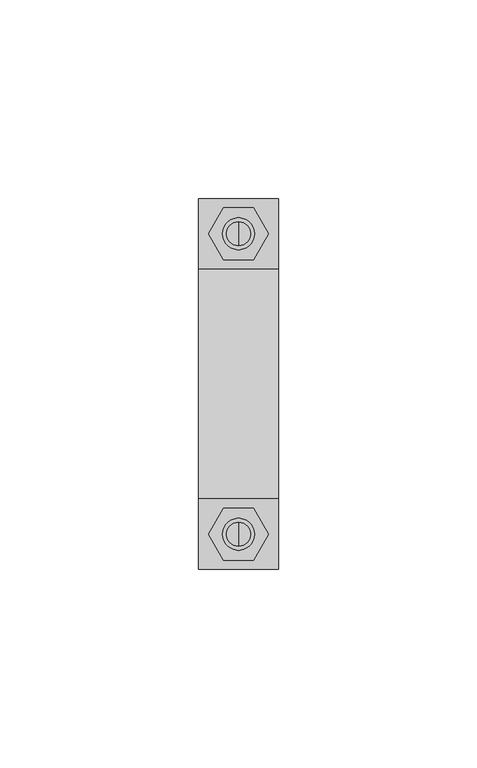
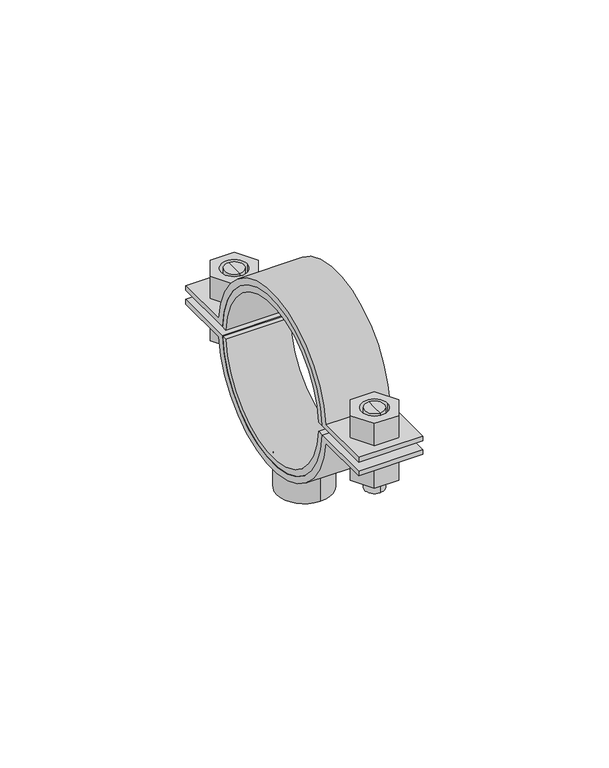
"""IFC4 building model written with IfcOpenShell, lengths in millimetres: valve geometry, Superfix DG2 Clamp : Superfix DG2 Clamp."""

from ifc_helpers import new_model, si_unit, point, frame, frame_2d, origin, origin_2d, place, context, project, spatial, polyline, circle_curve, trimmed, segment, composite_curve, outline, extrude, source, transform, mapped, element, save
from ifc_brep_helpers import plane_surface, cylinder_surface, advanced_brep


def valve_2c299770(model_context):
    return source(origin(), model_context, "Body", "SolidModel", [
        advanced_brep(
        [(0.0, 40.75, 184.4), (0.0, 34.75, 184.4), (0.0, 34.75, 198.5), (0.0, 40.75, 198.5), (0.0, 37.75, 184.4)],
        [
            (0, 1, circle_curve(frame((0.0, 37.75, 184.4), z_axis=(0.0, 0.0, 1.0), x_axis=(0.0, 1.0, 0.0)), 3.0)),
            (1, 2),
            (2, 3, circle_curve(frame((0.0, 37.75, 198.5), z_axis=(0.0, 0.0, -1.0), x_axis=(0.0, 1.0, 0.0)), 3.0)),
            (3, 0),
            (1, 0, circle_curve(frame((0.0, 37.75, 184.4), z_axis=(0.0, 0.0, 1.0), x_axis=(0.0, 1.0, 0.0)), 3.0)),
            (3, 2, circle_curve(frame((0.0, 37.75, 198.5), z_axis=(0.0, 0.0, -1.0), x_axis=(0.0, 1.0, 0.0)), 3.0)),
            (0, 4),
            (4, 1),
        ],
        [
            cylinder_surface(frame((0.0, 37.75, 198.2806094), z_axis=(0.0, 0.0, 1.0), x_axis=(0.0, 1.0, 0.0)), 3.0),
            plane_surface(frame((0.0, 37.75, 184.4), z_axis=(0.0, 0.0, -1.0), x_axis=(0.0, 1.0, 0.0))),
            plane_surface(frame((13.75, -46.5, 198.5), z_axis=(0.0, 0.0, 1.0), x_axis=(-1.0, 0.0, 0.0))),
        ],
        [
            (0, [[1, 2, 3, 4]]),
            (0, [[5, -4, 6, -2]]),
            (1, [[-1, 7, 8]]),
            (1, [[-5, -8, -7]]),
            (2, [[-3, -6]]),
        ],
    ),
        advanced_brep(
        [(0.0, 34.75, 210.6), (0.0, 40.75, 210.6), (0.0, 40.75, 201.5), (0.0, 34.75, 201.5), (0.0, 37.75, 210.6)],
        [
            (0, 1, circle_curve(frame((0.0, 37.75, 210.6), z_axis=(0.0, 0.0, -1.0), x_axis=(0.0, 1.0, 0.0)), 3.0)),
            (1, 2),
            (2, 3, circle_curve(frame((0.0, 37.75, 201.5), z_axis=(0.0, 0.0, 1.0), x_axis=(0.0, 1.0, 0.0)), 3.0)),
            (3, 0),
            (1, 0, circle_curve(frame((0.0, 37.75, 210.6), z_axis=(0.0, 0.0, -1.0), x_axis=(0.0, 1.0, 0.0)), 3.0)),
            (3, 2, circle_curve(frame((0.0, 37.75, 201.5), z_axis=(0.0, 0.0, 1.0), x_axis=(0.0, 1.0, 0.0)), 3.0)),
            (0, 4),
            (4, 1),
        ],
        [
            cylinder_surface(frame((0.0, 37.75, 198.2806094), z_axis=(0.0, 0.0, 1.0), x_axis=(0.0, 1.0, 0.0)), 3.0),
            plane_surface(frame((0.0, 37.75, 210.6), z_axis=(0.0, 0.0, 1.0), x_axis=(0.0, 1.0, 0.0))),
            plane_surface(frame((13.75, 46.5, 201.5), z_axis=(0.0, 0.0, -1.0), x_axis=(-1.0, 0.0, 0.0))),
        ],
        [
            (0, [[1, 2, 3, 4]]),
            (0, [[5, -4, 6, -2]]),
            (1, [[-1, 7, 8]]),
            (1, [[-5, -8, -7]]),
            (2, [[-3, -6]]),
        ],
    ),
        advanced_brep(
        [(0.0, -40.75, 210.6), (0.0, -34.75, 210.6), (0.0, -34.75, 201.5), (0.0, -40.75, 201.5), (0.0, -37.75, 210.6)],
        [
            (0, 1, circle_curve(frame((0.0, -37.75, 210.6), z_axis=(0.0, 0.0, -1.0), x_axis=(0.0, -1.0, 0.0)), 3.0)),
            (1, 2),
            (2, 3, circle_curve(frame((0.0, -37.75, 201.5), z_axis=(0.0, 0.0, 1.0), x_axis=(0.0, -1.0, 0.0)), 3.0)),
            (3, 0),
            (1, 0, circle_curve(frame((0.0, -37.75, 210.6), z_axis=(0.0, 0.0, -1.0), x_axis=(0.0, -1.0, 0.0)), 3.0)),
            (3, 2, circle_curve(frame((0.0, -37.75, 201.5), z_axis=(0.0, 0.0, 1.0), x_axis=(0.0, -1.0, 0.0)), 3.0)),
            (0, 4),
            (4, 1),
        ],
        [
            cylinder_surface(frame((0.0, -37.75, 198.2806094), z_axis=(0.0, 0.0, -1.0), x_axis=(0.0, -1.0, 0.0)), 3.0),
            plane_surface(frame((0.0, -37.75, 210.6), z_axis=(0.0, 0.0, 1.0), x_axis=(0.0, -1.0, 0.0))),
            plane_surface(frame((13.75, 46.5, 201.5), z_axis=(0.0, 0.0, -1.0), x_axis=(-1.0, 0.0, 0.0))),
        ],
        [
            (0, [[1, 2, 3, 4]]),
            (0, [[5, -4, 6, -2]]),
            (1, [[-1, 7, 8]]),
            (1, [[-5, -8, -7]]),
            (2, [[-3, -6]]),
        ],
    ),
        advanced_brep(
        [(0.0, -34.75, 184.4), (0.0, -40.75, 184.4), (0.0, -40.75, 198.5), (0.0, -34.75, 198.5), (0.0, -37.75, 184.4)],
        [
            (0, 1, circle_curve(frame((0.0, -37.75, 184.4), z_axis=(0.0, 0.0, 1.0), x_axis=(0.0, -1.0, 0.0)), 3.0)),
            (1, 2),
            (2, 3, circle_curve(frame((0.0, -37.75, 198.5), z_axis=(0.0, 0.0, -1.0), x_axis=(0.0, -1.0, 0.0)), 3.0)),
            (3, 0),
            (1, 0, circle_curve(frame((0.0, -37.75, 184.4), z_axis=(0.0, 0.0, 1.0), x_axis=(0.0, -1.0, 0.0)), 3.0)),
            (3, 2, circle_curve(frame((0.0, -37.75, 198.5), z_axis=(0.0, 0.0, -1.0), x_axis=(0.0, -1.0, 0.0)), 3.0)),
            (0, 4),
            (4, 1),
        ],
        [
            cylinder_surface(frame((0.0, -37.75, 198.2806094), z_axis=(0.0, 0.0, -1.0), x_axis=(0.0, -1.0, 0.0)), 3.0),
            plane_surface(frame((0.0, -37.75, 184.4), z_axis=(0.0, 0.0, -1.0), x_axis=(0.0, -1.0, 0.0))),
            plane_surface(frame((13.75, -46.5, 198.5), z_axis=(0.0, 0.0, 1.0), x_axis=(-1.0, 0.0, 0.0))),
        ],
        [
            (0, [[1, 2, 3, 4]]),
            (0, [[5, -4, 6, -2]]),
            (1, [[-1, 7, 8]]),
            (1, [[-5, -8, -7]]),
            (2, [[-3, -6]]),
        ],
    ),
        extrude(outline(composite_curve([segment(trimmed(circle_curve(frame_2d((0.0, 200.0)), 27.0), [point((-26.9583011, 198.5))], [point((26.9583011, 198.5))], True, "CARTESIAN"), True, "CONTINUOUS"), segment(polyline([(26.9583011, 198.5), (46.5, 198.5), (46.5, 197.0), (28.8444102, 197.0)]), True, "CONTINUOUS"), segment(trimmed(circle_curve(frame_2d((0.0, 200.0)), 29.0), [point((28.8444102, 197.0))], [point((-28.8444102, 197.0))], False, "CARTESIAN"), True, "CONTINUOUS"), segment(polyline([(-28.8444102, 197.0), (-46.5, 197.0), (-46.5, 198.5), (-26.9583011, 198.5)]), True, "CONTINUOUS")], self_intersect=False)), frame((-10.0, 0.0, 0.0), z_axis=(1.0, 0.0, 0.0), x_axis=(0.0, 1.0, 0.0)), (0.0, 0.0, 1.0), 20.0),
        extrude(outline(composite_curve([segment(trimmed(circle_curve(frame_2d((0.0, 200.0)), 27.0), [point((26.9583011, 201.5))], [point((-26.9583011, 201.5))], True, "CARTESIAN"), True, "CONTINUOUS"), segment(polyline([(-26.9583011, 201.5), (-46.5, 201.5), (-46.5, 203.0), (-28.8444102, 203.0)]), True, "CONTINUOUS"), segment(trimmed(circle_curve(frame_2d((0.0, 200.0)), 29.0), [point((-28.8444102, 203.0))], [point((28.8444102, 203.0))], False, "CARTESIAN"), True, "CONTINUOUS"), segment(polyline([(28.8444102, 203.0), (46.5, 203.0), (46.5, 201.5), (26.9583011, 201.5)]), True, "CONTINUOUS")], self_intersect=False)), frame((-10.0, 0.0, 0.0), z_axis=(1.0, 0.0, 0.0), x_axis=(0.0, 1.0, 0.0)), (0.0, 0.0, 1.0), 20.0),
        extrude(outline(polyline([(7.5055535, -37.75), (3.7527767, -44.25), (-3.7527767, -44.25), (-7.5055535, -37.75), (-3.7527767, -31.25), (3.7527767, -31.25), (7.5055535, -37.75)]), holes=[composite_curve([segment(trimmed(circle_curve(frame_2d((0.0, -37.75)), 4.0), [point((4.0, -37.75))], [point((-4.0, -37.75))], True, "CARTESIAN"), True, "CONTINUOUS"), segment(trimmed(circle_curve(frame_2d((0.0, -37.75)), 4.0), [point((-4.0, -37.75))], [point((4.0, -37.75))], True, "CARTESIAN"), True, "CONTINUOUS")], self_intersect=False)]), frame((0.0, 0.0, 203.0), z_axis=(0.0, 0.0, 1.0), x_axis=(1.0, 0.0, 0.0)), (0.0, 0.0, 1.0), 7.6),
        extrude(outline(polyline([(7.5055535, 37.75), (3.7527767, 31.25), (-3.7527767, 31.25), (-7.5055535, 37.75), (-3.7527767, 44.25), (3.7527767, 44.25), (7.5055535, 37.75)]), holes=[composite_curve([segment(trimmed(circle_curve(frame_2d((0.0, 37.75)), 4.0), [point((4.0, 37.75))], [point((-4.0, 37.75))], True, "CARTESIAN"), True, "CONTINUOUS"), segment(trimmed(circle_curve(frame_2d((0.0, 37.75)), 4.0), [point((-4.0, 37.75))], [point((4.0, 37.75))], True, "CARTESIAN"), True, "CONTINUOUS")], self_intersect=False)]), frame((0.0, 0.0, 203.0), z_axis=(0.0, 0.0, 1.0), x_axis=(1.0, 0.0, 0.0)), (0.0, 0.0, 1.0), 7.6),
        extrude(outline(polyline([(7.5055535, -37.75), (3.7527767, -44.25), (-3.7527767, -44.25), (-7.5055535, -37.75), (-3.7527767, -31.25), (3.7527767, -31.25), (7.5055535, -37.75)]), holes=[composite_curve([segment(trimmed(circle_curve(frame_2d((0.0, -37.75)), 4.0), [point((4.0, -37.75))], [point((-4.0, -37.75))], True, "CARTESIAN"), True, "CONTINUOUS"), segment(trimmed(circle_curve(frame_2d((0.0, -37.75)), 4.0), [point((-4.0, -37.75))], [point((4.0, -37.75))], True, "CARTESIAN"), True, "CONTINUOUS")], self_intersect=False)]), frame((0.0, 0.0, 189.4), z_axis=(0.0, 0.0, 1.0), x_axis=(1.0, 0.0, 0.0)), (0.0, 0.0, 1.0), 7.6),
        extrude(outline(polyline([(7.5055535, 37.75), (3.7527767, 31.25), (-3.7527767, 31.25), (-7.5055535, 37.75), (-3.7527767, 44.25), (3.7527767, 44.25), (7.5055535, 37.75)]), holes=[composite_curve([segment(trimmed(circle_curve(frame_2d((0.0, 37.75)), 4.0), [point((4.0, 37.75))], [point((-4.0, 37.75))], True, "CARTESIAN"), True, "CONTINUOUS"), segment(trimmed(circle_curve(frame_2d((0.0, 37.75)), 4.0), [point((-4.0, 37.75))], [point((4.0, 37.75))], True, "CARTESIAN"), True, "CONTINUOUS")], self_intersect=False)]), frame((0.0, 0.0, 189.4), z_axis=(0.0, 0.0, 1.0), x_axis=(1.0, 0.0, 0.0)), (0.0, 0.0, 1.0), 7.6),
        extrude(outline(composite_curve([segment(trimmed(circle_curve(origin_2d(), 8.5), [point((0.0, 8.5))], [point((0.0, -8.5))], False, "CARTESIAN"), True, "CONTINUOUS"), segment(trimmed(circle_curve(origin_2d(), 8.5), [point((0.0, -8.5))], [point((0.0, 8.5))], False, "CARTESIAN"), True, "CONTINUOUS")], self_intersect=False), holes=[composite_curve([segment(trimmed(circle_curve(origin_2d(), 5.0), [point((0.0, 5.0))], [point((0.0, -5.0))], True, "CARTESIAN"), True, "CONTINUOUS"), segment(trimmed(circle_curve(origin_2d(), 5.0), [point((0.0, -5.0))], [point((0.0, 5.0))], True, "CARTESIAN"), True, "CONTINUOUS")], self_intersect=False)]), frame((0.0, 0.0, 162.0), z_axis=(0.0, 0.0, 1.0), x_axis=(1.0, 0.0, 0.0)), (0.0, 0.0, 1.0), 11.5),
        extrude(outline(composite_curve([segment(trimmed(circle_curve(frame_2d((0.0, 200.0)), 25.0), [point((24.9549594, 201.5))], [point((-24.9549594, 201.5))], True, "CARTESIAN"), True, "CONTINUOUS"), segment(polyline([(-24.9549594, 201.5), (-26.9583011, 201.5)]), True, "CONTINUOUS"), segment(trimmed(circle_curve(frame_2d((0.0, 200.0)), 27.0), [point((-26.9583011, 201.5))], [point((26.9583011, 201.5))], False, "CARTESIAN"), True, "CONTINUOUS"), segment(polyline([(26.9583011, 201.5), (24.9549594, 201.5)]), True, "CONTINUOUS")], self_intersect=False)), frame((-10.0, 0.0, 0.0), z_axis=(1.0, 0.0, 0.0), x_axis=(0.0, 1.0, 0.0)), (0.0, 0.0, 1.0), 20.0),
        extrude(outline(composite_curve([segment(polyline([(24.9549594, 198.5), (26.9583011, 198.5)]), True, "CONTINUOUS"), segment(trimmed(circle_curve(frame_2d((0.0, 200.0)), 27.0), [point((26.9583011, 198.5))], [point((-26.9583011, 198.5))], False, "CARTESIAN"), True, "CONTINUOUS"), segment(polyline([(-26.9583011, 198.5), (-24.9549594, 198.5)]), True, "CONTINUOUS"), segment(trimmed(circle_curve(frame_2d((0.0, 200.0)), 25.0), [point((-24.9549594, 198.5))], [point((24.9549594, 198.5))], True, "CARTESIAN"), True, "CONTINUOUS")], self_intersect=False)), frame((-10.0, 0.0, 0.0), z_axis=(1.0, 0.0, 0.0), x_axis=(0.0, 1.0, 0.0)), (0.0, 0.0, 1.0), 20.0),
    ])


if __name__ == "__main__":
    model = new_model("IFC4")
    model_context = context("Model", 3, world=origin())
    ifc_project = project(units=[si_unit("LENGTHUNIT", "METRE", prefix="MILLI")], contexts=[model_context])
    site = spatial("IfcSite", under=ifc_project)
    building = spatial("IfcBuilding", under=site)
    placement = place(None, origin())
    valve_shape = valve_2c299770(model_context)
    element("IfcValve", 1, ObjectType="Superfix DG2 Clamp : Superfix DG2 Clamp", at=placement, inside=building, context=model_context, shape_type="MappedRepresentation", body=[
        mapped(valve_shape, transform((0.0, 0.0, 0.0), x_axis=(1.0, 0.0, 0.0), y_axis=(0.0, 1.0, 0.0), z_axis=(0.0, 0.0, 1.0))),
    ])
    save(model, "model.ifc")
